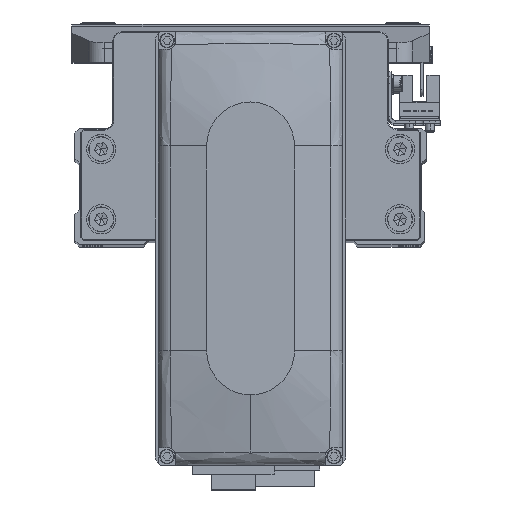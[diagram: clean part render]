
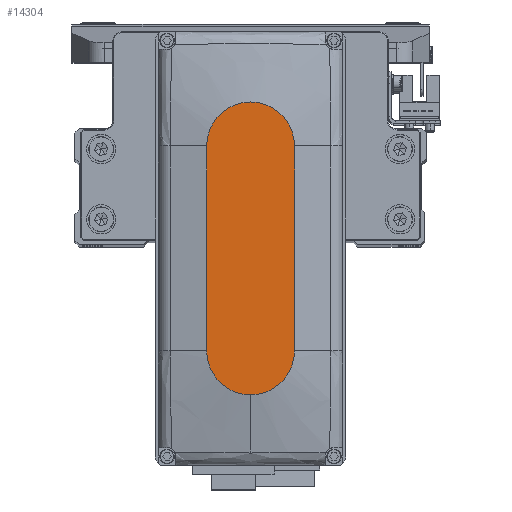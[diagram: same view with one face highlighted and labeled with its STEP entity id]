
A CAD part, top view. The second image highlights one B-rep face of the part: STEP entity #14304.
In plain terms, the highlighted planar face has unit normal (0, 0, 1).
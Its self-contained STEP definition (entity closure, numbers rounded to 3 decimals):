
#189 = AXIS2_PLACEMENT_3D ( 'NONE', #16437, #29974, #43454 ) ;
#667 = DIRECTION ( 'NONE',  ( -1., 0., 0. ) ) ;
#1119 = ORIENTED_EDGE ( 'NONE', *, *, #23154, .T. ) ;
#1242 = EDGE_CURVE ( 'NONE', #15234, #28051, #10776, .T. ) ;
#2907 = PLANE ( 'NONE',  #189 ) ;
#6146 = CARTESIAN_POINT ( 'NONE',  ( -35., 15., 35. ) ) ;
#6980 = EDGE_CURVE ( 'NONE', #33390, #15234, #17523, .T. ) ;
#7095 = DIRECTION ( 'NONE',  ( 1., 0., 0. ) ) ;
#7914 = CARTESIAN_POINT ( 'NONE',  ( -35., -15., 35. ) ) ;
#8586 = VECTOR ( 'NONE', #667, 1000. ) ;
#9673 = EDGE_CURVE ( 'NONE', #21699, #33390, #30746, .T. ) ;
#10150 = LINE ( 'NONE', #23668, #20753 ) ;
#10243 = ORIENTED_EDGE ( 'NONE', *, *, #1242, .T. ) ;
#10776 = CIRCLE ( 'NONE', #20856, 15. ) ;
#11640 = AXIS2_PLACEMENT_3D ( 'NONE', #16054, #29575, #43038 ) ;
#13214 = CARTESIAN_POINT ( 'NONE',  ( 35., 0., 35. ) ) ;
#13543 = CARTESIAN_POINT ( 'NONE',  ( 35., 15., 35. ) ) ;
#14304 = ADVANCED_FACE ( 'NONE', ( #33268 ), #2907, .T. ) ;
#14799 = CARTESIAN_POINT ( 'NONE',  ( 35., -15., 35. ) ) ;
#15234 = VERTEX_POINT ( 'NONE', #6146 ) ;
#16054 = CARTESIAN_POINT ( 'NONE',  ( 35., 0., 35. ) ) ;
#16437 = CARTESIAN_POINT ( 'NONE',  ( 0., 0., 35. ) ) ;
#17523 = LINE ( 'NONE', #31039, #8586 ) ;
#18626 = CIRCLE ( 'NONE', #24287, 15. ) ;
#20386 = VERTEX_POINT ( 'NONE', #14799 ) ;
#20753 = VECTOR ( 'NONE', #37172, 1000. ) ;
#20856 = AXIS2_PLACEMENT_3D ( 'NONE', #23939, #37449, #7095 ) ;
#21699 = VERTEX_POINT ( 'NONE', #36244 ) ;
#21768 = EDGE_CURVE ( 'NONE', #20386, #21699, #18626, .T. ) ;
#23006 = ORIENTED_EDGE ( 'NONE', *, *, #6980, .T. ) ;
#23154 = EDGE_CURVE ( 'NONE', #28051, #20386, #10150, .T. ) ;
#23192 = ORIENTED_EDGE ( 'NONE', *, *, #9673, .T. ) ;
#23668 = CARTESIAN_POINT ( 'NONE',  ( -35., -15., 35. ) ) ;
#23939 = CARTESIAN_POINT ( 'NONE',  ( -35., 0., 35. ) ) ;
#24287 = AXIS2_PLACEMENT_3D ( 'NONE', #13214, #26728, #40204 ) ;
#26728 = DIRECTION ( 'NONE',  ( 0., 0., 1. ) ) ;
#28051 = VERTEX_POINT ( 'NONE', #7914 ) ;
#29575 = DIRECTION ( 'NONE',  ( 0., 0., 1. ) ) ;
#29974 = DIRECTION ( 'NONE',  ( 0., 0., 1. ) ) ;
#30746 = CIRCLE ( 'NONE', #11640, 15. ) ;
#30869 = EDGE_LOOP ( 'NONE', ( #23006, #10243, #1119, #32285, #23192 ) ) ;
#31039 = CARTESIAN_POINT ( 'NONE',  ( -35., 15., 35. ) ) ;
#32285 = ORIENTED_EDGE ( 'NONE', *, *, #21768, .T. ) ;
#33268 = FACE_OUTER_BOUND ( 'NONE', #30869, .T. ) ;
#33390 = VERTEX_POINT ( 'NONE', #13543 ) ;
#36244 = CARTESIAN_POINT ( 'NONE',  ( 50., 0., 35. ) ) ;
#37172 = DIRECTION ( 'NONE',  ( 1., 0., 0. ) ) ;
#37449 = DIRECTION ( 'NONE',  ( 0., 0., 1. ) ) ;
#40204 = DIRECTION ( 'NONE',  ( 1., 0., 0. ) ) ;
#43038 = DIRECTION ( 'NONE',  ( 1., 0., 0. ) ) ;
#43454 = DIRECTION ( 'NONE',  ( 1., 0., 0. ) ) ;
